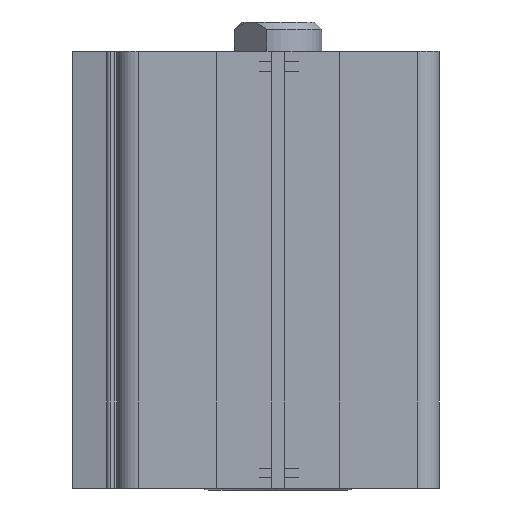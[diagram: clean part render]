
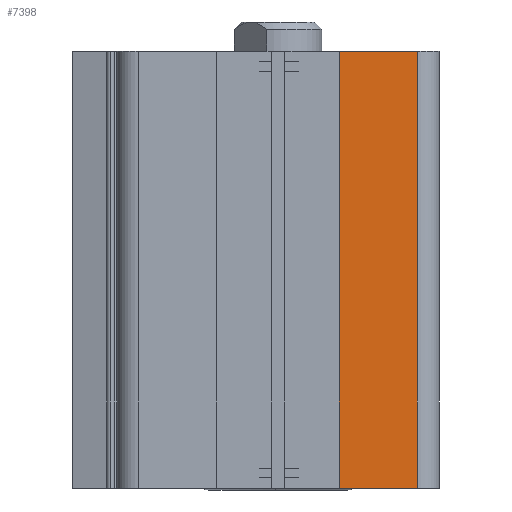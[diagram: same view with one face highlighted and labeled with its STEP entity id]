
A CAD part, left-side view. The second image highlights one B-rep face of the part: STEP entity #7398.
In plain terms, the highlighted planar face has unit normal (-1, 0, 0).
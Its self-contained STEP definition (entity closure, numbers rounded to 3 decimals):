
#1493 = DIRECTION ( 'NONE',  ( 0., 0., -1. ) ) ;
#1966 = ORIENTED_EDGE ( 'NONE', *, *, #8776, .F. ) ;
#2533 = CARTESIAN_POINT ( 'NONE',  ( -22., -8.35, 0. ) ) ;
#3173 = CARTESIAN_POINT ( 'NONE',  ( -22., -19., 0. ) ) ;
#3344 = ORIENTED_EDGE ( 'NONE', *, *, #7222, .F. ) ;
#3891 = LINE ( 'NONE', #3173, #17926 ) ;
#4189 = DIRECTION ( 'NONE',  ( 1., 0., 0. ) ) ;
#4205 = VERTEX_POINT ( 'NONE', #2533 ) ;
#4249 = VECTOR ( 'NONE', #1493, 1000. ) ;
#4420 = ORIENTED_EDGE ( 'NONE', *, *, #17348, .T. ) ;
#4499 = CARTESIAN_POINT ( 'NONE',  ( -22., -8.35, 59.6 ) ) ;
#4710 = LINE ( 'NONE', #4949, #5283 ) ;
#4718 = DIRECTION ( 'NONE',  ( 0., -1., 0. ) ) ;
#4949 = CARTESIAN_POINT ( 'NONE',  ( -22., -19., 59.6 ) ) ;
#5272 = AXIS2_PLACEMENT_3D ( 'NONE', #19774, #4189, #13561 ) ;
#5283 = VECTOR ( 'NONE', #8096, 1000. ) ;
#5583 = EDGE_LOOP ( 'NONE', ( #8379, #1966, #3344, #4420 ) ) ;
#6750 = CARTESIAN_POINT ( 'NONE',  ( -22., -19., 0. ) ) ;
#7005 = EDGE_CURVE ( 'NONE', #4205, #18561, #3891, .T. ) ;
#7222 = EDGE_CURVE ( 'NONE', #11722, #16176, #4710, .T. ) ;
#7398 = ADVANCED_FACE ( 'NONE', ( #8017 ), #15328, .F. ) ;
#8017 = FACE_OUTER_BOUND ( 'NONE', #5583, .T. ) ;
#8096 = DIRECTION ( 'NONE',  ( 0., -1., 0. ) ) ;
#8356 = CARTESIAN_POINT ( 'NONE',  ( -22., -19., 59.6 ) ) ;
#8379 = ORIENTED_EDGE ( 'NONE', *, *, #7005, .T. ) ;
#8776 = EDGE_CURVE ( 'NONE', #16176, #18561, #11172, .T. ) ;
#11172 = LINE ( 'NONE', #8356, #17950 ) ;
#11222 = LINE ( 'NONE', #4499, #4249 ) ;
#11722 = VERTEX_POINT ( 'NONE', #17469 ) ;
#13561 = DIRECTION ( 'NONE',  ( 0., 0., -1. ) ) ;
#14618 = DIRECTION ( 'NONE',  ( 0., 0., -1. ) ) ;
#15328 = PLANE ( 'NONE',  #5272 ) ;
#16176 = VERTEX_POINT ( 'NONE', #17534 ) ;
#17348 = EDGE_CURVE ( 'NONE', #11722, #4205, #11222, .T. ) ;
#17469 = CARTESIAN_POINT ( 'NONE',  ( -22., -8.35, 59.6 ) ) ;
#17534 = CARTESIAN_POINT ( 'NONE',  ( -22., -19., 59.6 ) ) ;
#17926 = VECTOR ( 'NONE', #4718, 1000. ) ;
#17950 = VECTOR ( 'NONE', #14618, 1000. ) ;
#18561 = VERTEX_POINT ( 'NONE', #6750 ) ;
#19774 = CARTESIAN_POINT ( 'NONE',  ( -22., -19., 59.6 ) ) ;
